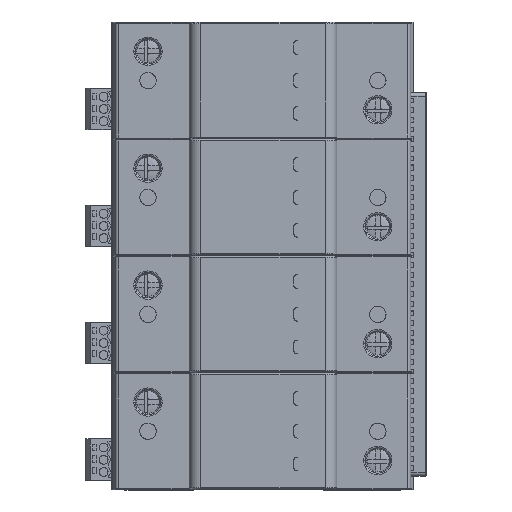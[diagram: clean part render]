
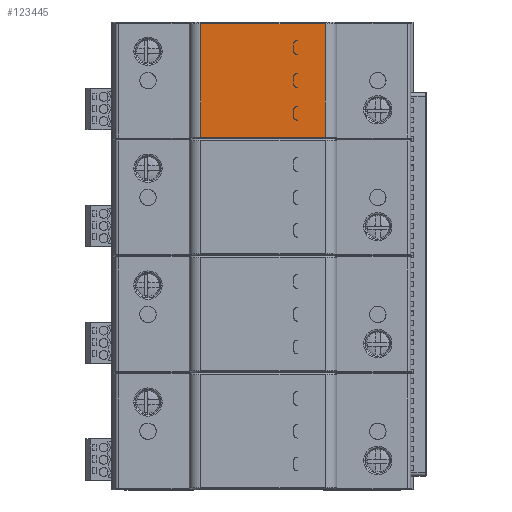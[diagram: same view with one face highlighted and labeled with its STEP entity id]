
A CAD part, top view. The second image highlights one B-rep face of the part: STEP entity #123445.
In plain terms, the highlighted planar face has unit normal (0, 0, 1).
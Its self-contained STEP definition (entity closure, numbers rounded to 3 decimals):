
#9277=DIRECTION('',(0.,1.,0.));
#9278=VECTOR('',#9277,34.5);
#9279=CARTESIAN_POINT('',(26.,107.35,31.2));
#9280=LINE('',#9279,#9278);
#9285=CARTESIAN_POINT('',(55.45,113.5,31.2));
#9286=DIRECTION('',(0.,0.,1.));
#9287=DIRECTION('',(-1.,0.,0.));
#9288=AXIS2_PLACEMENT_3D('',#9285,#9286,#9287);
#9290=DIRECTION('',(0.,-1.,0.));
#9291=VECTOR('',#9290,2.2);
#9292=CARTESIAN_POINT('',(54.45,115.7,31.2));
#9293=LINE('',#9292,#9291);
#9294=CARTESIAN_POINT('',(55.45,115.7,31.2));
#9295=DIRECTION('',(0.,0.,1.));
#9296=DIRECTION('',(0.,1.,0.));
#9297=AXIS2_PLACEMENT_3D('',#9294,#9295,#9296);
#9299=CARTESIAN_POINT('',(55.4,115.7,31.2));
#9300=DIRECTION('',(0.,0.,-1.));
#9301=DIRECTION('',(-1.,0.,0.));
#9302=AXIS2_PLACEMENT_3D('',#9299,#9300,#9301);
#9304=CARTESIAN_POINT('',(55.4,113.5,31.2));
#9305=DIRECTION('',(0.,0.,-1.));
#9306=DIRECTION('',(0.,-1.,0.));
#9307=AXIS2_PLACEMENT_3D('',#9304,#9305,#9306);
#9309=CARTESIAN_POINT('',(55.45,123.5,31.2));
#9310=DIRECTION('',(0.,0.,1.));
#9311=DIRECTION('',(-1.,0.,0.));
#9312=AXIS2_PLACEMENT_3D('',#9309,#9310,#9311);
#9314=DIRECTION('',(0.,-1.,0.));
#9315=VECTOR('',#9314,2.2);
#9316=CARTESIAN_POINT('',(54.45,125.7,31.2));
#9317=LINE('',#9316,#9315);
#9318=CARTESIAN_POINT('',(55.45,125.7,31.2));
#9319=DIRECTION('',(0.,0.,1.));
#9320=DIRECTION('',(0.,1.,0.));
#9321=AXIS2_PLACEMENT_3D('',#9318,#9319,#9320);
#9323=CARTESIAN_POINT('',(55.4,125.7,31.2));
#9324=DIRECTION('',(0.,0.,-1.));
#9325=DIRECTION('',(-1.,0.,0.));
#9326=AXIS2_PLACEMENT_3D('',#9323,#9324,#9325);
#9328=CARTESIAN_POINT('',(55.4,123.5,31.2));
#9329=DIRECTION('',(0.,0.,-1.));
#9330=DIRECTION('',(0.,-1.,0.));
#9331=AXIS2_PLACEMENT_3D('',#9328,#9329,#9330);
#9333=CARTESIAN_POINT('',(55.45,133.5,31.2));
#9334=DIRECTION('',(0.,0.,1.));
#9335=DIRECTION('',(-1.,0.,0.));
#9336=AXIS2_PLACEMENT_3D('',#9333,#9334,#9335);
#9338=DIRECTION('',(0.,-1.,0.));
#9339=VECTOR('',#9338,2.2);
#9340=CARTESIAN_POINT('',(54.45,135.7,31.2));
#9341=LINE('',#9340,#9339);
#9342=CARTESIAN_POINT('',(55.45,135.7,31.2));
#9343=DIRECTION('',(0.,0.,1.));
#9344=DIRECTION('',(0.,1.,0.));
#9345=AXIS2_PLACEMENT_3D('',#9342,#9343,#9344);
#9347=CARTESIAN_POINT('',(55.4,135.7,31.2));
#9348=DIRECTION('',(0.,0.,-1.));
#9349=DIRECTION('',(-1.,0.,0.));
#9350=AXIS2_PLACEMENT_3D('',#9347,#9348,#9349);
#9352=CARTESIAN_POINT('',(55.4,133.5,31.2));
#9353=DIRECTION('',(0.,0.,-1.));
#9354=DIRECTION('',(0.,-1.,0.));
#9355=AXIS2_PLACEMENT_3D('',#9352,#9353,#9354);
#9361=DIRECTION('',(0.,-1.,0.));
#9362=VECTOR('',#9361,34.5);
#9363=CARTESIAN_POINT('',(64.,141.85,31.2));
#9364=LINE('',#9363,#9362);
#46418=DIRECTION('',(0.,-1.,0.));
#46419=VECTOR('',#46418,2.2);
#46420=CARTESIAN_POINT('',(54.4,115.7,31.2));
#46421=LINE('',#46420,#46419);
#46439=DIRECTION('',(1.,0.,0.));
#46440=VECTOR('',#46439,0.05);
#46441=CARTESIAN_POINT('',(55.4,112.5,31.2));
#46442=LINE('',#46441,#46440);
#46485=DIRECTION('',(-1.,0.,0.));
#46486=VECTOR('',#46485,0.05);
#46487=CARTESIAN_POINT('',(55.45,116.7,31.2));
#46488=LINE('',#46487,#46486);
#46694=DIRECTION('',(0.,-1.,0.));
#46695=VECTOR('',#46694,2.2);
#46696=CARTESIAN_POINT('',(54.4,125.7,31.2));
#46697=LINE('',#46696,#46695);
#46715=DIRECTION('',(1.,0.,0.));
#46716=VECTOR('',#46715,0.05);
#46717=CARTESIAN_POINT('',(55.4,122.5,31.2));
#46718=LINE('',#46717,#46716);
#46761=DIRECTION('',(-1.,0.,0.));
#46762=VECTOR('',#46761,0.05);
#46763=CARTESIAN_POINT('',(55.45,126.7,31.2));
#46764=LINE('',#46763,#46762);
#46970=DIRECTION('',(0.,-1.,0.));
#46971=VECTOR('',#46970,2.2);
#46972=CARTESIAN_POINT('',(54.4,135.7,31.2));
#46973=LINE('',#46972,#46971);
#46991=DIRECTION('',(1.,0.,0.));
#46992=VECTOR('',#46991,0.05);
#46993=CARTESIAN_POINT('',(55.4,132.5,31.2));
#46994=LINE('',#46993,#46992);
#47037=DIRECTION('',(-1.,0.,0.));
#47038=VECTOR('',#47037,0.05);
#47039=CARTESIAN_POINT('',(55.45,136.7,31.2));
#47040=LINE('',#47039,#47038);
#62988=DIRECTION('',(-1.,0.,0.));
#62989=VECTOR('',#62988,38.);
#62990=CARTESIAN_POINT('',(64.,107.35,31.2));
#62991=LINE('',#62990,#62989);
#74591=DIRECTION('',(1.,0.,0.));
#74592=VECTOR('',#74591,38.);
#74593=CARTESIAN_POINT('',(26.,141.85,31.2));
#74594=LINE('',#74593,#74592);
#109351=CARTESIAN_POINT('',(55.4,122.5,31.2));
#109352=CARTESIAN_POINT('',(54.4,123.5,31.2));
#109353=VERTEX_POINT('',#109351);
#109354=VERTEX_POINT('',#109352);
#109355=CARTESIAN_POINT('',(54.4,125.7,31.2));
#109356=VERTEX_POINT('',#109355);
#109357=CARTESIAN_POINT('',(55.4,126.7,31.2));
#109358=VERTEX_POINT('',#109357);
#109359=CARTESIAN_POINT('',(55.4,132.5,31.2));
#109360=CARTESIAN_POINT('',(54.4,133.5,31.2));
#109361=VERTEX_POINT('',#109359);
#109362=VERTEX_POINT('',#109360);
#109363=CARTESIAN_POINT('',(54.4,135.7,31.2));
#109364=VERTEX_POINT('',#109363);
#109365=CARTESIAN_POINT('',(55.4,136.7,31.2));
#109366=VERTEX_POINT('',#109365);
#109367=CARTESIAN_POINT('',(55.4,112.5,31.2));
#109368=CARTESIAN_POINT('',(54.4,113.5,31.2));
#109369=VERTEX_POINT('',#109367);
#109370=VERTEX_POINT('',#109368);
#109371=CARTESIAN_POINT('',(54.4,115.7,31.2));
#109372=VERTEX_POINT('',#109371);
#109373=CARTESIAN_POINT('',(55.4,116.7,31.2));
#109374=VERTEX_POINT('',#109373);
#109375=CARTESIAN_POINT('',(64.,141.85,31.2));
#109376=CARTESIAN_POINT('',(64.,107.35,31.2));
#109377=VERTEX_POINT('',#109375);
#109378=VERTEX_POINT('',#109376);
#109379=CARTESIAN_POINT('',(26.,141.85,31.2));
#109380=VERTEX_POINT('',#109379);
#109381=CARTESIAN_POINT('',(26.,107.35,31.2));
#109382=VERTEX_POINT('',#109381);
#110952=CARTESIAN_POINT('',(54.45,115.7,31.2));
#110953=CARTESIAN_POINT('',(54.45,113.5,31.2));
#110954=VERTEX_POINT('',#110952);
#110955=VERTEX_POINT('',#110953);
#110972=CARTESIAN_POINT('',(55.45,116.7,31.2));
#110973=VERTEX_POINT('',#110972);
#110974=CARTESIAN_POINT('',(55.45,112.5,31.2));
#110975=VERTEX_POINT('',#110974);
#110984=CARTESIAN_POINT('',(54.45,125.7,31.2));
#110985=CARTESIAN_POINT('',(54.45,123.5,31.2));
#110986=VERTEX_POINT('',#110984);
#110987=VERTEX_POINT('',#110985);
#111004=CARTESIAN_POINT('',(55.45,126.7,31.2));
#111005=VERTEX_POINT('',#111004);
#111006=CARTESIAN_POINT('',(55.45,122.5,31.2));
#111007=VERTEX_POINT('',#111006);
#111016=CARTESIAN_POINT('',(54.45,135.7,31.2));
#111017=CARTESIAN_POINT('',(54.45,133.5,31.2));
#111018=VERTEX_POINT('',#111016);
#111019=VERTEX_POINT('',#111017);
#111036=CARTESIAN_POINT('',(55.45,136.7,31.2));
#111037=VERTEX_POINT('',#111036);
#111038=CARTESIAN_POINT('',(55.45,132.5,31.2));
#111039=VERTEX_POINT('',#111038);
#123377=CARTESIAN_POINT('',(45.,124.6,31.2));
#123378=DIRECTION('',(0.,0.,1.));
#123379=DIRECTION('',(1.,0.,0.));
#123380=AXIS2_PLACEMENT_3D('',#123377,#123378,#123379);
#123381=PLANE('',#123380);
#123383=ORIENTED_EDGE('',*,*,#123382,.T.);
#123385=ORIENTED_EDGE('',*,*,#123384,.T.);
#123386=ORIENTED_EDGE('',*,*,#123367,.T.);
#123388=ORIENTED_EDGE('',*,*,#123387,.T.);
#123389=EDGE_LOOP('',(#123383,#123385,#123386,#123388));
#123390=FACE_OUTER_BOUND('',#123389,.F.);
#123392=ORIENTED_EDGE('',*,*,#123391,.T.);
#123394=ORIENTED_EDGE('',*,*,#123393,.F.);
#123396=ORIENTED_EDGE('',*,*,#123395,.F.);
#123398=ORIENTED_EDGE('',*,*,#123397,.F.);
#123400=ORIENTED_EDGE('',*,*,#123399,.T.);
#123402=ORIENTED_EDGE('',*,*,#123401,.F.);
#123404=ORIENTED_EDGE('',*,*,#123403,.T.);
#123406=ORIENTED_EDGE('',*,*,#123405,.F.);
#123407=EDGE_LOOP('',(#123392,#123394,#123396,#123398,#123400,#123402,#123404,
#123406));
#123408=FACE_BOUND('',#123407,.F.);
#123410=ORIENTED_EDGE('',*,*,#123409,.T.);
#123412=ORIENTED_EDGE('',*,*,#123411,.F.);
#123414=ORIENTED_EDGE('',*,*,#123413,.F.);
#123416=ORIENTED_EDGE('',*,*,#123415,.F.);
#123418=ORIENTED_EDGE('',*,*,#123417,.T.);
#123420=ORIENTED_EDGE('',*,*,#123419,.F.);
#123422=ORIENTED_EDGE('',*,*,#123421,.T.);
#123424=ORIENTED_EDGE('',*,*,#123423,.F.);
#123425=EDGE_LOOP('',(#123410,#123412,#123414,#123416,#123418,#123420,#123422,
#123424));
#123426=FACE_BOUND('',#123425,.F.);
#123428=ORIENTED_EDGE('',*,*,#123427,.T.);
#123430=ORIENTED_EDGE('',*,*,#123429,.F.);
#123432=ORIENTED_EDGE('',*,*,#123431,.F.);
#123434=ORIENTED_EDGE('',*,*,#123433,.F.);
#123436=ORIENTED_EDGE('',*,*,#123435,.T.);
#123438=ORIENTED_EDGE('',*,*,#123437,.F.);
#123440=ORIENTED_EDGE('',*,*,#123439,.T.);
#123442=ORIENTED_EDGE('',*,*,#123441,.F.);
#123443=EDGE_LOOP('',(#123428,#123430,#123432,#123434,#123436,#123438,#123440,
#123442));
#123444=FACE_BOUND('',#123443,.F.);
#123445=ADVANCED_FACE('',(#123390,#123408,#123426,#123444),#123381,.T.);
#9289=CIRCLE('',#9288,1.);
#9298=CIRCLE('',#9297,1.);
#9303=CIRCLE('',#9302,1.);
#9308=CIRCLE('',#9307,1.);
#9313=CIRCLE('',#9312,1.);
#9322=CIRCLE('',#9321,1.);
#9327=CIRCLE('',#9326,1.);
#9332=CIRCLE('',#9331,1.);
#9337=CIRCLE('',#9336,1.);
#9346=CIRCLE('',#9345,1.);
#9351=CIRCLE('',#9350,1.);
#9356=CIRCLE('',#9355,1.);
#123367=EDGE_CURVE('',#109382,#109380,#9280,.T.);
#123382=EDGE_CURVE('',#109377,#109378,#9364,.T.);
#123384=EDGE_CURVE('',#109378,#109382,#62991,.T.);
#123387=EDGE_CURVE('',#109380,#109377,#74594,.T.);
#123391=EDGE_CURVE('',#109369,#110975,#46442,.T.);
#123393=EDGE_CURVE('',#110955,#110975,#9289,.T.);
#123395=EDGE_CURVE('',#110954,#110955,#9293,.T.);
#123397=EDGE_CURVE('',#110973,#110954,#9298,.T.);
#123399=EDGE_CURVE('',#110973,#109374,#46488,.T.);
#123401=EDGE_CURVE('',#109372,#109374,#9303,.T.);
#123403=EDGE_CURVE('',#109372,#109370,#46421,.T.);
#123405=EDGE_CURVE('',#109369,#109370,#9308,.T.);
#123409=EDGE_CURVE('',#109353,#111007,#46718,.T.);
#123411=EDGE_CURVE('',#110987,#111007,#9313,.T.);
#123413=EDGE_CURVE('',#110986,#110987,#9317,.T.);
#123415=EDGE_CURVE('',#111005,#110986,#9322,.T.);
#123417=EDGE_CURVE('',#111005,#109358,#46764,.T.);
#123419=EDGE_CURVE('',#109356,#109358,#9327,.T.);
#123421=EDGE_CURVE('',#109356,#109354,#46697,.T.);
#123423=EDGE_CURVE('',#109353,#109354,#9332,.T.);
#123427=EDGE_CURVE('',#109361,#111039,#46994,.T.);
#123429=EDGE_CURVE('',#111019,#111039,#9337,.T.);
#123431=EDGE_CURVE('',#111018,#111019,#9341,.T.);
#123433=EDGE_CURVE('',#111037,#111018,#9346,.T.);
#123435=EDGE_CURVE('',#111037,#109366,#47040,.T.);
#123437=EDGE_CURVE('',#109364,#109366,#9351,.T.);
#123439=EDGE_CURVE('',#109364,#109362,#46973,.T.);
#123441=EDGE_CURVE('',#109361,#109362,#9356,.T.);
